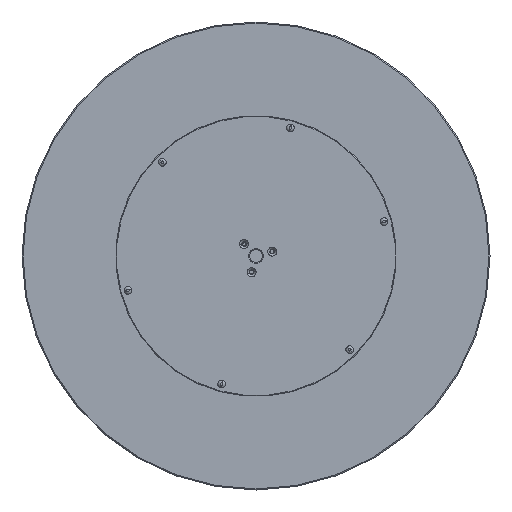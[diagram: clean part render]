
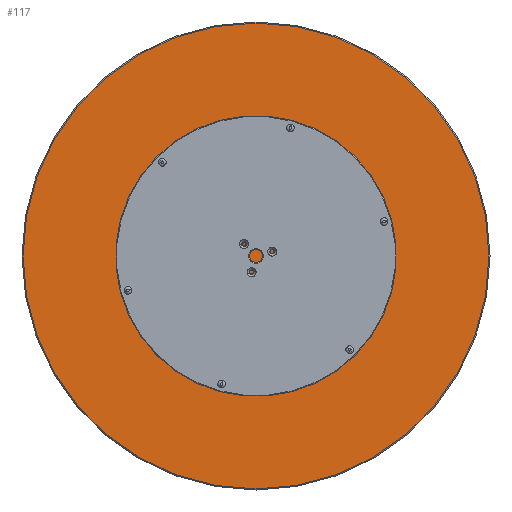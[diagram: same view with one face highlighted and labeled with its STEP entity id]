
A CAD part, front view. The second image highlights one B-rep face of the part: STEP entity #117.
In plain terms, the highlighted planar face has unit normal (0, -1, 0).
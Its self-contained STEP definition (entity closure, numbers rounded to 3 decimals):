
#59 = EDGE_CURVE ( 'NONE', #3173, #1129, #4098, .T. ) ;
#66 = VERTEX_POINT ( 'NONE', #4254 ) ;
#79 = AXIS2_PLACEMENT_3D ( 'NONE', #201, #571, #226 ) ;
#93 = VERTEX_POINT ( 'NONE', #225 ) ;
#116 = EDGE_CURVE ( 'NONE', #2752, #3387, #483, .T. ) ;
#117 = ADVANCED_FACE ( 'NONE', ( #3300, #1938, #1326, #246, #1646 ), #3633, .F. ) ;
#125 = ORIENTED_EDGE ( 'NONE', *, *, #2036, .T. ) ;
#137 = AXIS2_PLACEMENT_3D ( 'NONE', #4191, #1898, #3238 ) ;
#174 = EDGE_CURVE ( 'NONE', #4299, #66, #2545, .T. ) ;
#198 = EDGE_CURVE ( 'NONE', #2002, #93, #3463, .T. ) ;
#201 = CARTESIAN_POINT ( 'NONE',  ( 0., 0., 0. ) ) ;
#225 = CARTESIAN_POINT ( 'NONE',  ( 0., 0., 211.5 ) ) ;
#226 = DIRECTION ( 'NONE',  ( 0., 0., 1. ) ) ;
#246 = FACE_BOUND ( 'NONE', #818, .T. ) ;
#249 = CIRCLE ( 'NONE', #1953, 3. ) ;
#363 = DIRECTION ( 'NONE',  ( 0., 1., 0. ) ) ;
#428 = ORIENTED_EDGE ( 'NONE', *, *, #116, .T. ) ;
#483 = CIRCLE ( 'NONE', #1057, 3. ) ;
#495 = CIRCLE ( 'NONE', #2556, 448. ) ;
#531 = ORIENTED_EDGE ( 'NONE', *, *, #3119, .T. ) ;
#571 = DIRECTION ( 'NONE',  ( 0., -1., 0. ) ) ;
#605 = CARTESIAN_POINT ( 'NONE',  ( 0., 0., 214.5 ) ) ;
#626 = AXIS2_PLACEMENT_3D ( 'NONE', #3362, #2654, #1684 ) ;
#818 = EDGE_LOOP ( 'NONE', ( #2821, #2188 ) ) ;
#827 = CARTESIAN_POINT ( 'NONE',  ( -214.5, 0., -3. ) ) ;
#847 = CARTESIAN_POINT ( 'NONE',  ( 214.5, 0., 3. ) ) ;
#862 = CIRCLE ( 'NONE', #1353, 3. ) ;
#883 = CARTESIAN_POINT ( 'NONE',  ( 214.5, 0., 0. ) ) ;
#1057 = AXIS2_PLACEMENT_3D ( 'NONE', #1262, #1974, #3342 ) ;
#1096 = ORIENTED_EDGE ( 'NONE', *, *, #2307, .T. ) ;
#1129 = VERTEX_POINT ( 'NONE', #2549 ) ;
#1140 = EDGE_LOOP ( 'NONE', ( #125, #531 ) ) ;
#1171 = CARTESIAN_POINT ( 'NONE',  ( 0., 0., 217.5 ) ) ;
#1235 = DIRECTION ( 'NONE',  ( 0., 0., 1. ) ) ;
#1262 = CARTESIAN_POINT ( 'NONE',  ( 0., 0., -214.5 ) ) ;
#1326 = FACE_BOUND ( 'NONE', #3885, .T. ) ;
#1353 = AXIS2_PLACEMENT_3D ( 'NONE', #2774, #4121, #2440 ) ;
#1525 = ORIENTED_EDGE ( 'NONE', *, *, #1863, .T. ) ;
#1630 = DIRECTION ( 'NONE',  ( 0., -1., 0. ) ) ;
#1646 = FACE_BOUND ( 'NONE', #1654, .T. ) ;
#1654 = EDGE_LOOP ( 'NONE', ( #3658, #3660 ) ) ;
#1672 = CIRCLE ( 'NONE', #4142, 3. ) ;
#1684 = DIRECTION ( 'NONE',  ( 0., 0., 1. ) ) ;
#1783 = EDGE_LOOP ( 'NONE', ( #3882, #1096 ) ) ;
#1834 = VERTEX_POINT ( 'NONE', #3802 ) ;
#1863 = EDGE_CURVE ( 'NONE', #3387, #2752, #3758, .T. ) ;
#1898 = DIRECTION ( 'NONE',  ( 0., 1., 0. ) ) ;
#1905 = DIRECTION ( 'NONE',  ( 0., 1., 0. ) ) ;
#1938 = FACE_BOUND ( 'NONE', #1783, .T. ) ;
#1953 = AXIS2_PLACEMENT_3D ( 'NONE', #883, #1905, #1235 ) ;
#1974 = DIRECTION ( 'NONE',  ( 0., 1., 0. ) ) ;
#2002 = VERTEX_POINT ( 'NONE', #1171 ) ;
#2036 = EDGE_CURVE ( 'NONE', #4244, #1834, #495, .T. ) ;
#2188 = ORIENTED_EDGE ( 'NONE', *, *, #174, .T. ) ;
#2307 = EDGE_CURVE ( 'NONE', #1129, #3173, #862, .T. ) ;
#2328 = AXIS2_PLACEMENT_3D ( 'NONE', #4309, #3981, #4015 ) ;
#2338 = DIRECTION ( 'NONE',  ( 0., 1., 0. ) ) ;
#2440 = DIRECTION ( 'NONE',  ( 0., 0., 1. ) ) ;
#2545 = CIRCLE ( 'NONE', #626, 3. ) ;
#2549 = CARTESIAN_POINT ( 'NONE',  ( -214.5, 0., 3. ) ) ;
#2556 = AXIS2_PLACEMENT_3D ( 'NONE', #4286, #1630, #3946 ) ;
#2654 = DIRECTION ( 'NONE',  ( 0., 1., 0. ) ) ;
#2681 = AXIS2_PLACEMENT_3D ( 'NONE', #2964, #4291, #3022 ) ;
#2752 = VERTEX_POINT ( 'NONE', #4043 ) ;
#2762 = CARTESIAN_POINT ( 'NONE',  ( 0., 0., -214.5 ) ) ;
#2774 = CARTESIAN_POINT ( 'NONE',  ( -214.5, 0., 0. ) ) ;
#2821 = ORIENTED_EDGE ( 'NONE', *, *, #3941, .T. ) ;
#2964 = CARTESIAN_POINT ( 'NONE',  ( 0., 0., 214.5 ) ) ;
#3022 = DIRECTION ( 'NONE',  ( 0., 0., 1. ) ) ;
#3119 = EDGE_CURVE ( 'NONE', #1834, #4244, #3832, .T. ) ;
#3173 = VERTEX_POINT ( 'NONE', #827 ) ;
#3238 = DIRECTION ( 'NONE',  ( 0., 0., 1. ) ) ;
#3300 = FACE_OUTER_BOUND ( 'NONE', #1140, .T. ) ;
#3342 = DIRECTION ( 'NONE',  ( 0., 0., 1. ) ) ;
#3362 = CARTESIAN_POINT ( 'NONE',  ( 214.5, 0., 0. ) ) ;
#3387 = VERTEX_POINT ( 'NONE', #3474 ) ;
#3399 = DIRECTION ( 'NONE',  ( 0., 0., 1. ) ) ;
#3463 = CIRCLE ( 'NONE', #2681, 3. ) ;
#3474 = CARTESIAN_POINT ( 'NONE',  ( 0., 0., -217.5 ) ) ;
#3605 = EDGE_CURVE ( 'NONE', #93, #2002, #1672, .T. ) ;
#3633 = PLANE ( 'NONE',  #2328 ) ;
#3658 = ORIENTED_EDGE ( 'NONE', *, *, #3605, .T. ) ;
#3660 = ORIENTED_EDGE ( 'NONE', *, *, #198, .T. ) ;
#3691 = AXIS2_PLACEMENT_3D ( 'NONE', #2762, #363, #3399 ) ;
#3758 = CIRCLE ( 'NONE', #3691, 3. ) ;
#3802 = CARTESIAN_POINT ( 'NONE',  ( 0., 0., -448. ) ) ;
#3832 = CIRCLE ( 'NONE', #79, 448. ) ;
#3879 = CARTESIAN_POINT ( 'NONE',  ( 0., 0., 448. ) ) ;
#3882 = ORIENTED_EDGE ( 'NONE', *, *, #59, .T. ) ;
#3885 = EDGE_LOOP ( 'NONE', ( #1525, #428 ) ) ;
#3941 = EDGE_CURVE ( 'NONE', #66, #4299, #249, .T. ) ;
#3946 = DIRECTION ( 'NONE',  ( 0., 0., 1. ) ) ;
#3981 = DIRECTION ( 'NONE',  ( 0., 1., 0. ) ) ;
#4012 = DIRECTION ( 'NONE',  ( 0., 0., 1. ) ) ;
#4015 = DIRECTION ( 'NONE',  ( 0., 0., 1. ) ) ;
#4043 = CARTESIAN_POINT ( 'NONE',  ( 0., 0., -211.5 ) ) ;
#4098 = CIRCLE ( 'NONE', #137, 3. ) ;
#4121 = DIRECTION ( 'NONE',  ( 0., 1., 0. ) ) ;
#4142 = AXIS2_PLACEMENT_3D ( 'NONE', #605, #2338, #4012 ) ;
#4191 = CARTESIAN_POINT ( 'NONE',  ( -214.5, 0., 0. ) ) ;
#4244 = VERTEX_POINT ( 'NONE', #3879 ) ;
#4254 = CARTESIAN_POINT ( 'NONE',  ( 214.5, 0., -3. ) ) ;
#4286 = CARTESIAN_POINT ( 'NONE',  ( 0., 0., 0. ) ) ;
#4291 = DIRECTION ( 'NONE',  ( 0., 1., 0. ) ) ;
#4299 = VERTEX_POINT ( 'NONE', #847 ) ;
#4309 = CARTESIAN_POINT ( 'NONE',  ( 0., 0., 0. ) ) ;
